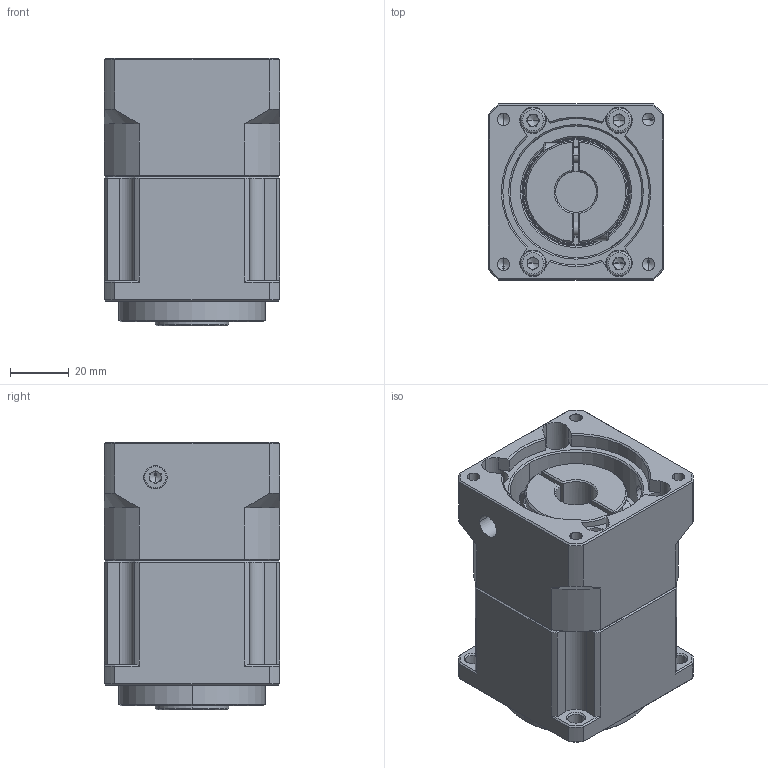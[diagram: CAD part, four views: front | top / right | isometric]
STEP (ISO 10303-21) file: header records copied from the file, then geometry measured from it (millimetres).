
FILE_DESCRIPTION (( 'STEP AP214' ), '1' );
FILE_NAME ('ZPB060-K16-L1-P1-14-50-70-M5.step', '2024-04-24T07:34:50', ( '' ), ( '' ), 'SwSTEP 2.0', 'SolidWorks 2016', '' );
FILE_SCHEMA (( 'AUTOMOTIVE_DESIGN' ));
Length unit declared in the file: millimetre
Products named in the file (1): ZPB060-K16-L1-P1-14-50-70-M5
Bounding box: 60 x 60 x 91.5 mm (x, y, z)
Volume: 242499.5 mm3; surface area: 65490.7 mm2
Topology: 13 solids, 22 shells, 1677 faces, 4773 edges, 3100 vertices
Faces by surface type: plane 867, bspline 315, cylinder 219, cone 138, torus 92, sphere 46
Entity records: 86738 total; most frequent: CARTESIAN_POINT 27510, ORIENTED_EDGE 9244, DIRECTION 7147, EDGE_CURVE 4622, VERTEX_POINT 3031, LINE 2731, VECTOR 2731, AXIS2_PLACEMENT_3D 2208
